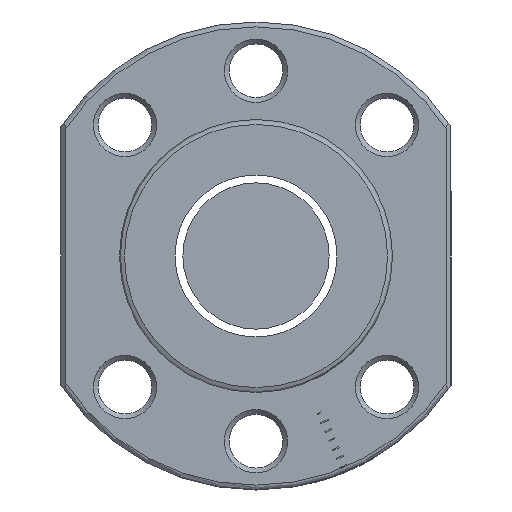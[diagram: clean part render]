
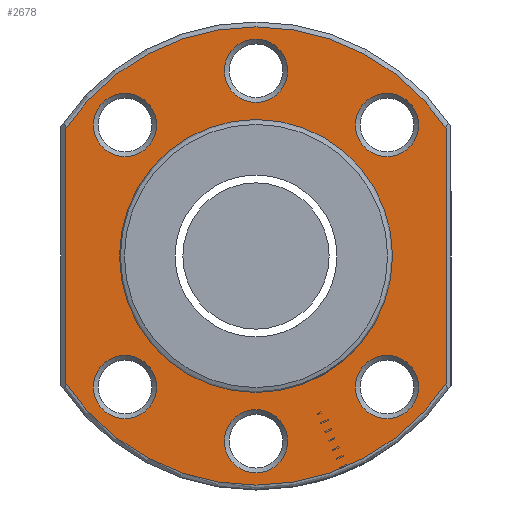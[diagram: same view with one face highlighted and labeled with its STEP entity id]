
A CAD part, left-side view. The second image highlights one B-rep face of the part: STEP entity #2678.
In plain terms, the highlighted planar face has unit normal (-1, 0, 0).
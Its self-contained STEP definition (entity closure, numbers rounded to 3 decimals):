
#70 = DIRECTION ( 'NONE',  ( 0., 0., 1. ) ) ;
#83 = AXIS2_PLACEMENT_3D ( 'NONE', #2622, #3098, #171 ) ;
#104 = FACE_OUTER_BOUND ( 'NONE', #1534, .T. ) ;
#112 = CARTESIAN_POINT ( 'NONE',  ( -63., 13.435, 16.685 ) ) ;
#114 = ORIENTED_EDGE ( 'NONE', *, *, #1391, .T. ) ;
#115 = DIRECTION ( 'NONE',  ( 1., 0., 0. ) ) ;
#148 = DIRECTION ( 'NONE',  ( -1., 0., 0. ) ) ;
#162 = CARTESIAN_POINT ( 'NONE',  ( -63., 24., 0. ) ) ;
#169 = ORIENTED_EDGE ( 'NONE', *, *, #1588, .T. ) ;
#171 = DIRECTION ( 'NONE',  ( 0., 0., 1. ) ) ;
#172 = CARTESIAN_POINT ( 'NONE',  ( -63., 0., -14. ) ) ;
#174 = ORIENTED_EDGE ( 'NONE', *, *, #924, .T. ) ;
#330 = DIRECTION ( 'NONE',  ( 0., 0., 1. ) ) ;
#343 = CIRCLE ( 'NONE', #1310, 23.5 ) ;
#359 = AXIS2_PLACEMENT_3D ( 'NONE', #1618, #2579, #1800 ) ;
#459 = CARTESIAN_POINT ( 'NONE',  ( -63., -13.435, 13.435 ) ) ;
#462 = DIRECTION ( 'NONE',  ( 1., 0., 0. ) ) ;
#463 = ORIENTED_EDGE ( 'NONE', *, *, #499, .T. ) ;
#472 = CIRCLE ( 'NONE', #2047, 23.5 ) ;
#499 = EDGE_CURVE ( 'NONE', #3036, #3036, #1044, .T. ) ;
#501 = CARTESIAN_POINT ( 'NONE',  ( -63., 19.5, -13.115 ) ) ;
#549 = DIRECTION ( 'NONE',  ( -1., 0., 0. ) ) ;
#555 = EDGE_LOOP ( 'NONE', ( #1931 ) ) ;
#572 = ORIENTED_EDGE ( 'NONE', *, *, #2935, .T. ) ;
#573 = DIRECTION ( 'NONE',  ( -1., 0., 0. ) ) ;
#608 = DIRECTION ( 'NONE',  ( 0., 0., -1. ) ) ;
#620 = CARTESIAN_POINT ( 'NONE',  ( -63., 0., 22.25 ) ) ;
#634 = CARTESIAN_POINT ( 'NONE',  ( -63., 0., -15.75 ) ) ;
#659 = EDGE_CURVE ( 'NONE', #2815, #2815, #873, .T. ) ;
#682 = CARTESIAN_POINT ( 'NONE',  ( -63., 13.435, -13.435 ) ) ;
#713 = CARTESIAN_POINT ( 'NONE',  ( -63., -19.5, -13.115 ) ) ;
#723 = EDGE_LOOP ( 'NONE', ( #572 ) ) ;
#731 = EDGE_CURVE ( 'NONE', #1087, #1087, #2392, .T. ) ;
#745 = CIRCLE ( 'NONE', #83, 3.25 ) ;
#797 = DIRECTION ( 'NONE',  ( 0., 0., 1. ) ) ;
#838 = AXIS2_PLACEMENT_3D ( 'NONE', #162, #148, #1573 ) ;
#873 = CIRCLE ( 'NONE', #359, 3.25 ) ;
#884 = CARTESIAN_POINT ( 'NONE',  ( -63., 0., 0. ) ) ;
#899 = VERTEX_POINT ( 'NONE', #713 ) ;
#916 = CARTESIAN_POINT ( 'NONE',  ( -63., 13.435, 13.435 ) ) ;
#924 = EDGE_CURVE ( 'NONE', #899, #1979, #956, .T. ) ;
#944 = CARTESIAN_POINT ( 'NONE',  ( -63., 13.435, -10.185 ) ) ;
#946 = EDGE_LOOP ( 'NONE', ( #463 ) ) ;
#956 = LINE ( 'NONE', #2681, #1434 ) ;
#1020 = EDGE_CURVE ( 'NONE', #2783, #2783, #2084, .T. ) ;
#1044 = CIRCLE ( 'NONE', #1122, 14. ) ;
#1067 = DIRECTION ( 'NONE',  ( 0., 0., -1. ) ) ;
#1079 = FACE_BOUND ( 'NONE', #723, .T. ) ;
#1087 = VERTEX_POINT ( 'NONE', #112 ) ;
#1094 = EDGE_CURVE ( 'NONE', #2901, #2737, #2710, .T. ) ;
#1115 = CARTESIAN_POINT ( 'NONE',  ( -63., -13.435, -10.185 ) ) ;
#1122 = AXIS2_PLACEMENT_3D ( 'NONE', #884, #2312, #608 ) ;
#1199 = CARTESIAN_POINT ( 'NONE',  ( -63., 19.5, 13.115 ) ) ;
#1273 = CARTESIAN_POINT ( 'NONE',  ( -63., -13.435, -13.435 ) ) ;
#1310 = AXIS2_PLACEMENT_3D ( 'NONE', #2484, #573, #70 ) ;
#1348 = ORIENTED_EDGE ( 'NONE', *, *, #1723, .T. ) ;
#1351 = FACE_BOUND ( 'NONE', #3117, .T. ) ;
#1366 = PLANE ( 'NONE',  #838 ) ;
#1381 = FACE_BOUND ( 'NONE', #2388, .T. ) ;
#1391 = EDGE_CURVE ( 'NONE', #2561, #2561, #745, .T. ) ;
#1434 = VECTOR ( 'NONE', #2429, 1000. ) ;
#1525 = CARTESIAN_POINT ( 'NONE',  ( -63., 19.5, 0. ) ) ;
#1534 = EDGE_LOOP ( 'NONE', ( #2367, #174, #1348, #1584 ) ) ;
#1573 = DIRECTION ( 'NONE',  ( 0., 0., 1. ) ) ;
#1584 = ORIENTED_EDGE ( 'NONE', *, *, #1094, .T. ) ;
#1588 = EDGE_CURVE ( 'NONE', #1877, #1877, #2012, .T. ) ;
#1601 = DIRECTION ( 'NONE',  ( 1., 0., 0. ) ) ;
#1618 = CARTESIAN_POINT ( 'NONE',  ( -63., 0., 19. ) ) ;
#1723 = EDGE_CURVE ( 'NONE', #1979, #2901, #343, .T. ) ;
#1775 = CARTESIAN_POINT ( 'NONE',  ( -63., -19.5, 13.115 ) ) ;
#1790 = DIRECTION ( 'NONE',  ( 1., 0., 0. ) ) ;
#1800 = DIRECTION ( 'NONE',  ( 0., 0., 1. ) ) ;
#1843 = CIRCLE ( 'NONE', #2366, 3.25 ) ;
#1877 = VERTEX_POINT ( 'NONE', #2575 ) ;
#1880 = DIRECTION ( 'NONE',  ( 0., 0., 1. ) ) ;
#1931 = ORIENTED_EDGE ( 'NONE', *, *, #659, .T. ) ;
#1934 = VECTOR ( 'NONE', #1067, 1000. ) ;
#1963 = AXIS2_PLACEMENT_3D ( 'NONE', #459, #115, #2056 ) ;
#1979 = VERTEX_POINT ( 'NONE', #1775 ) ;
#2012 = CIRCLE ( 'NONE', #1963, 3.25 ) ;
#2019 = EDGE_CURVE ( 'NONE', #2737, #899, #472, .T. ) ;
#2047 = AXIS2_PLACEMENT_3D ( 'NONE', #2508, #549, #330 ) ;
#2056 = DIRECTION ( 'NONE',  ( 0., 0., 1. ) ) ;
#2084 = CIRCLE ( 'NONE', #2643, 3.25 ) ;
#2089 = FACE_BOUND ( 'NONE', #2324, .T. ) ;
#2198 = EDGE_LOOP ( 'NONE', ( #2395 ) ) ;
#2312 = DIRECTION ( 'NONE',  ( 1., 0., 0. ) ) ;
#2324 = EDGE_LOOP ( 'NONE', ( #114 ) ) ;
#2343 = FACE_BOUND ( 'NONE', #946, .T. ) ;
#2366 = AXIS2_PLACEMENT_3D ( 'NONE', #682, #462, #2849 ) ;
#2367 = ORIENTED_EDGE ( 'NONE', *, *, #2019, .T. ) ;
#2388 = EDGE_LOOP ( 'NONE', ( #2865 ) ) ;
#2392 = CIRCLE ( 'NONE', #2898, 3.25 ) ;
#2395 = ORIENTED_EDGE ( 'NONE', *, *, #1020, .T. ) ;
#2429 = DIRECTION ( 'NONE',  ( 0., 0., 1. ) ) ;
#2484 = CARTESIAN_POINT ( 'NONE',  ( -63., 0., 0. ) ) ;
#2508 = CARTESIAN_POINT ( 'NONE',  ( -63., 0., 0. ) ) ;
#2561 = VERTEX_POINT ( 'NONE', #634 ) ;
#2575 = CARTESIAN_POINT ( 'NONE',  ( -63., -13.435, 16.685 ) ) ;
#2579 = DIRECTION ( 'NONE',  ( 1., 0., 0. ) ) ;
#2622 = CARTESIAN_POINT ( 'NONE',  ( -63., 0., -19. ) ) ;
#2643 = AXIS2_PLACEMENT_3D ( 'NONE', #1273, #1790, #797 ) ;
#2678 = ADVANCED_FACE ( 'NONE', ( #1079, #2089, #2822, #1351, #3027, #1381, #2343, #104 ), #1366, .T. ) ;
#2681 = CARTESIAN_POINT ( 'NONE',  ( -63., -19.5, 0. ) ) ;
#2710 = LINE ( 'NONE', #1525, #1934 ) ;
#2737 = VERTEX_POINT ( 'NONE', #501 ) ;
#2783 = VERTEX_POINT ( 'NONE', #1115 ) ;
#2815 = VERTEX_POINT ( 'NONE', #620 ) ;
#2822 = FACE_BOUND ( 'NONE', #2198, .T. ) ;
#2849 = DIRECTION ( 'NONE',  ( 0., 0., 1. ) ) ;
#2865 = ORIENTED_EDGE ( 'NONE', *, *, #731, .T. ) ;
#2898 = AXIS2_PLACEMENT_3D ( 'NONE', #916, #1601, #1880 ) ;
#2901 = VERTEX_POINT ( 'NONE', #1199 ) ;
#2935 = EDGE_CURVE ( 'NONE', #3115, #3115, #1843, .T. ) ;
#3027 = FACE_BOUND ( 'NONE', #555, .T. ) ;
#3036 = VERTEX_POINT ( 'NONE', #172 ) ;
#3098 = DIRECTION ( 'NONE',  ( 1., 0., 0. ) ) ;
#3115 = VERTEX_POINT ( 'NONE', #944 ) ;
#3117 = EDGE_LOOP ( 'NONE', ( #169 ) ) ;
